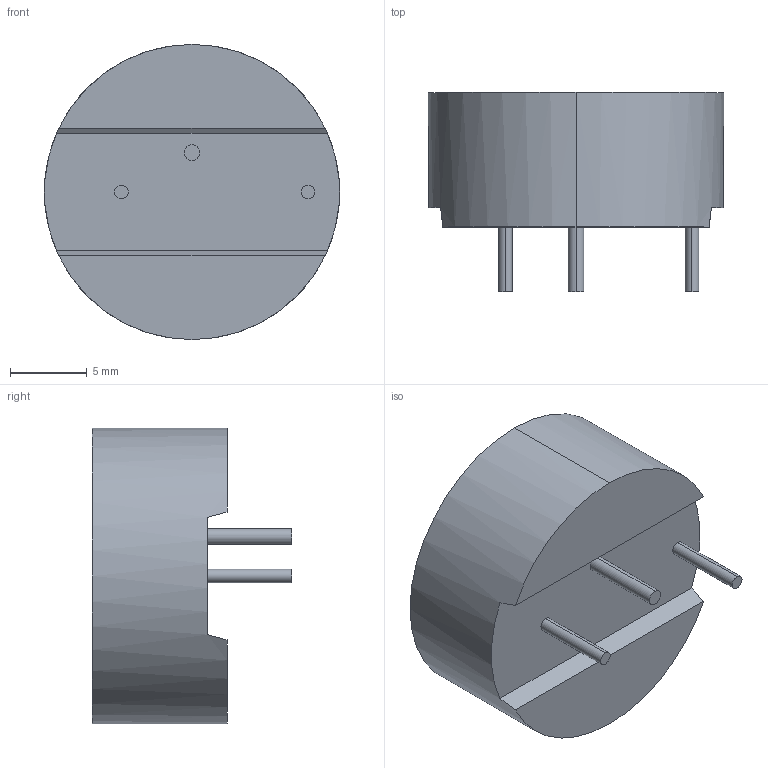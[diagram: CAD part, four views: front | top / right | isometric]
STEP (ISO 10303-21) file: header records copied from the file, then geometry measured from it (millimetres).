
FILE_DESCRIPTION (( 'STEP AP214' ), '1' );
FILE_NAME ('IHTH_IHTH0750IZ 33uH.step', '2014-06-30T13:57:12', ( '' ), ( '' ), 'SwSTEP 2.0', 'SolidWorks 2014', '' );
FILE_SCHEMA (( 'AUTOMOTIVE_DESIGN' ));
Length unit declared in the file: inch
Products named in the file (1): IHTH_IHTH0750IZ  33uH
Bounding box: 19.18 x 12.93 x 19.18 mm (x, y, z)
Volume: 2346.5 mm3; surface area: 1166 mm2
Topology: 1 solids, 1 shells, 42 faces, 96 edges, 64 vertices
Faces by surface type: plane 34, cylinder 8
Entity records: 1350 total; most frequent: CARTESIAN_POINT 215, DIRECTION 198, ORIENTED_EDGE 192, EDGE_CURVE 96, VECTOR 72, LINE 72, VERTEX_POINT 64, AXIS2_PLACEMENT_3D 63
